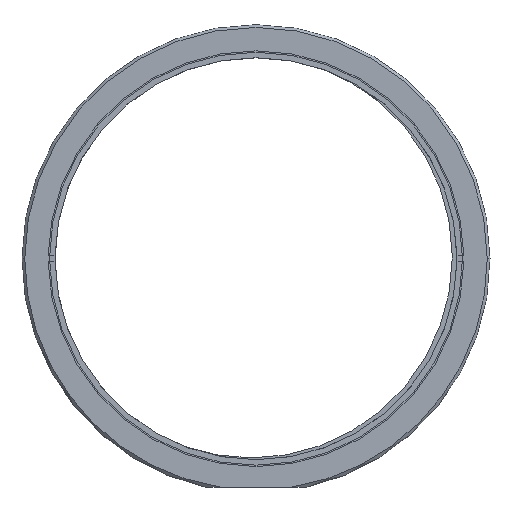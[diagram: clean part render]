
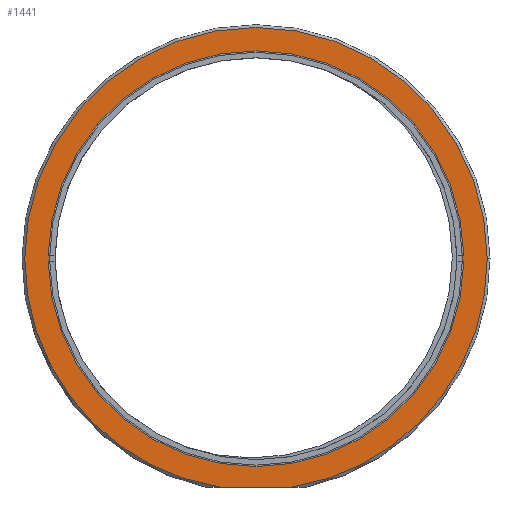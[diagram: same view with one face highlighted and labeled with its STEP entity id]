
A CAD part, top view. The second image highlights one B-rep face of the part: STEP entity #1441.
In plain terms, the highlighted planar face has unit normal (0, 0, 1).
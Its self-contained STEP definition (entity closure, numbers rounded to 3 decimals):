
#3 = VERTEX_POINT ( 'NONE', #892 ) ;
#18 = VERTEX_POINT ( 'NONE', #1271 ) ;
#20 = EDGE_CURVE ( 'NONE', #1653, #616, #98, .T. ) ;
#65 = FACE_OUTER_BOUND ( 'NONE', #869, .T. ) ;
#98 = LINE ( 'NONE', #601, #406 ) ;
#119 = DIRECTION ( 'NONE',  ( 1., 0., 0. ) ) ;
#214 = DIRECTION ( 'NONE',  ( 0., 0., 1. ) ) ;
#240 = CIRCLE ( 'NONE', #1349, 84. ) ;
#244 = CARTESIAN_POINT ( 'NONE',  ( 0., 0., 20. ) ) ;
#361 = AXIS2_PLACEMENT_3D ( 'NONE', #1671, #374, #890 ) ;
#374 = DIRECTION ( 'NONE',  ( 0., 0., 1. ) ) ;
#388 = EDGE_LOOP ( 'NONE', ( #1011, #1604 ) ) ;
#391 = DIRECTION ( 'NONE',  ( 1., 0., 0. ) ) ;
#406 = VECTOR ( 'NONE', #1127, 1000. ) ;
#451 = EDGE_CURVE ( 'NONE', #18, #503, #1442, .T. ) ;
#467 = CARTESIAN_POINT ( 'NONE',  ( 0., 0., 20. ) ) ;
#493 = DIRECTION ( 'NONE',  ( 1., 0., 0. ) ) ;
#503 = VERTEX_POINT ( 'NONE', #959 ) ;
#512 = CIRCLE ( 'NONE', #1474, 84. ) ;
#521 = DIRECTION ( 'NONE',  ( 0., 0., 1. ) ) ;
#548 = PLANE ( 'NONE',  #1247 ) ;
#566 = FACE_BOUND ( 'NONE', #388, .T. ) ;
#601 = CARTESIAN_POINT ( 'NONE',  ( 0., -83., 20. ) ) ;
#616 = VERTEX_POINT ( 'NONE', #1330 ) ;
#629 = AXIS2_PLACEMENT_3D ( 'NONE', #244, #521, #391 ) ;
#665 = EDGE_CURVE ( 'NONE', #3, #1653, #512, .T. ) ;
#670 = CIRCLE ( 'NONE', #1455, 84. ) ;
#780 = DIRECTION ( 'NONE',  ( 0., 0., 1. ) ) ;
#869 = EDGE_LOOP ( 'NONE', ( #1460, #1092, #994, #1102 ) ) ;
#884 = EDGE_CURVE ( 'NONE', #1344, #3, #240, .T. ) ;
#890 = DIRECTION ( 'NONE',  ( 1., 0., 0. ) ) ;
#892 = CARTESIAN_POINT ( 'NONE',  ( -84., 0., 20. ) ) ;
#959 = CARTESIAN_POINT ( 'NONE',  ( 75., 0., 20. ) ) ;
#980 = DIRECTION ( 'NONE',  ( 1., 0., 0. ) ) ;
#991 = DIRECTION ( 'NONE',  ( 0., 0., 1. ) ) ;
#994 = ORIENTED_EDGE ( 'NONE', *, *, #884, .T. ) ;
#1011 = ORIENTED_EDGE ( 'NONE', *, *, #1654, .F. ) ;
#1073 = CARTESIAN_POINT ( 'NONE',  ( 0., 0., 20. ) ) ;
#1092 = ORIENTED_EDGE ( 'NONE', *, *, #1242, .T. ) ;
#1102 = ORIENTED_EDGE ( 'NONE', *, *, #665, .T. ) ;
#1127 = DIRECTION ( 'NONE',  ( 1., 0., 0. ) ) ;
#1242 = EDGE_CURVE ( 'NONE', #616, #1344, #670, .T. ) ;
#1247 = AXIS2_PLACEMENT_3D ( 'NONE', #1073, #1598, #1498 ) ;
#1271 = CARTESIAN_POINT ( 'NONE',  ( -75., 0., 20. ) ) ;
#1307 = CARTESIAN_POINT ( 'NONE',  ( 0., 0., 20. ) ) ;
#1330 = CARTESIAN_POINT ( 'NONE',  ( 12.923, -83., 20. ) ) ;
#1344 = VERTEX_POINT ( 'NONE', #1680 ) ;
#1349 = AXIS2_PLACEMENT_3D ( 'NONE', #1307, #780, #119 ) ;
#1378 = CARTESIAN_POINT ( 'NONE',  ( 0., 0., 20. ) ) ;
#1441 = ADVANCED_FACE ( 'NONE', ( #566, #65 ), #548, .T. ) ;
#1442 = CIRCLE ( 'NONE', #629, 75. ) ;
#1455 = AXIS2_PLACEMENT_3D ( 'NONE', #467, #214, #493 ) ;
#1460 = ORIENTED_EDGE ( 'NONE', *, *, #20, .T. ) ;
#1474 = AXIS2_PLACEMENT_3D ( 'NONE', #1378, #991, #980 ) ;
#1498 = DIRECTION ( 'NONE',  ( 1., 0., 0. ) ) ;
#1523 = CIRCLE ( 'NONE', #361, 75. ) ;
#1557 = CARTESIAN_POINT ( 'NONE',  ( -12.923, -83., 20. ) ) ;
#1598 = DIRECTION ( 'NONE',  ( 0., 0., 1. ) ) ;
#1604 = ORIENTED_EDGE ( 'NONE', *, *, #451, .F. ) ;
#1653 = VERTEX_POINT ( 'NONE', #1557 ) ;
#1654 = EDGE_CURVE ( 'NONE', #503, #18, #1523, .T. ) ;
#1671 = CARTESIAN_POINT ( 'NONE',  ( 0., 0., 20. ) ) ;
#1680 = CARTESIAN_POINT ( 'NONE',  ( 84., 0., 20. ) ) ;
